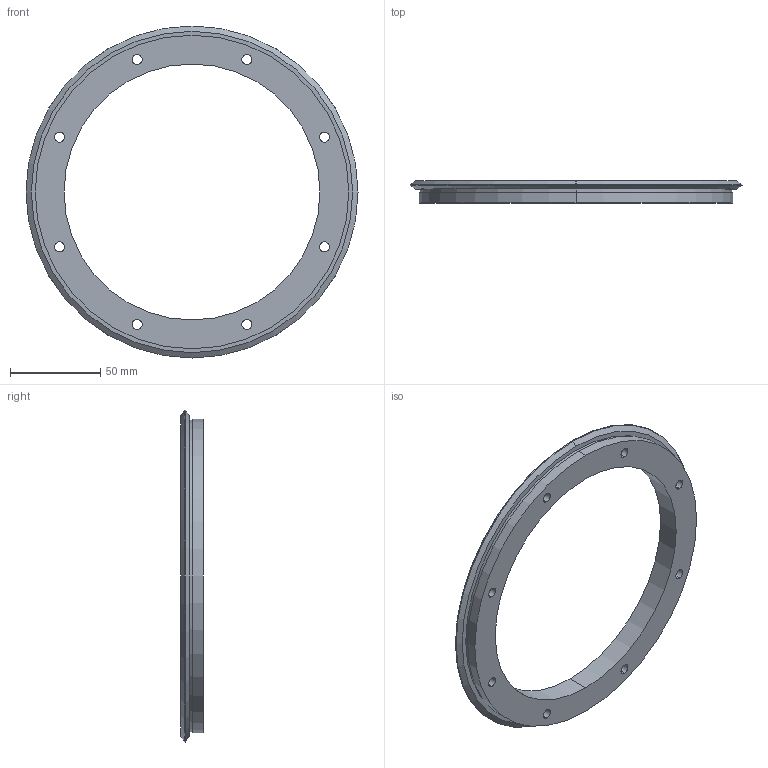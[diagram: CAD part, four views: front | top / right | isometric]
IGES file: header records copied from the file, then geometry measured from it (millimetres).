
Start section: 3D InterOp IGES (v. 2020 1.0.1), Spatial Corp. Copyright (c) 1999-2017.
Global section: file name: res_184_r360.igs; native system: Spatial Corp.; preprocessor: 3D InterOp ACIS/IGES; author: TraceParts; organization: TraceParts S.A.; date: 20220624.095421; units: millimetre
Bounding box: 184.22 x 12.25 x 184.22 mm (x, y, z)
Surface area: 34803.6 mm2 (no closed solid volume)
Topology: 0 solids, 0 shells, 58 faces, 264 edges, 264 vertices
Faces by surface type: revolution 46, extrusion 12
